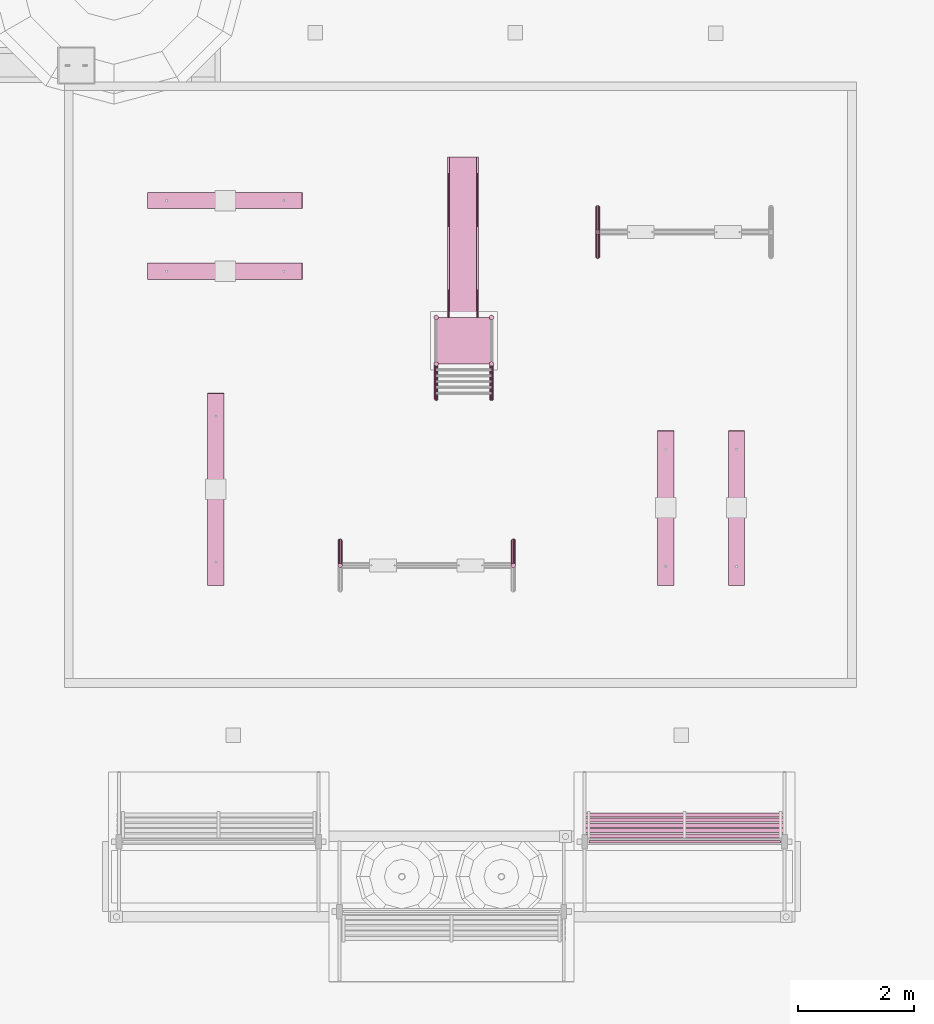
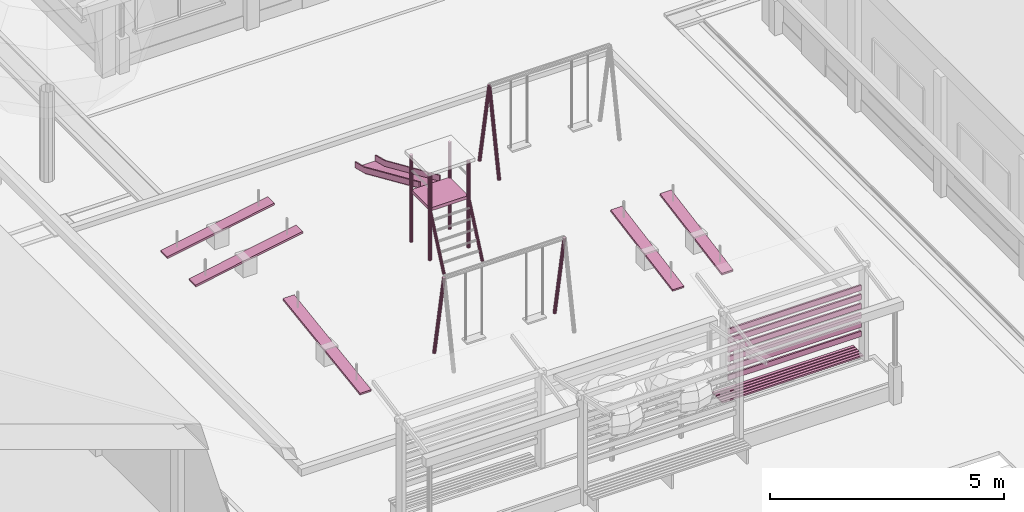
# One storey, part 146 of 177: 30 furnishings.
"""IFC4 building model written with IfcOpenShell, lengths in metres."""

from ifc_helpers import new_model, si_unit, origin, origin_with_axes, place, context, subcontext, project, spatial, triangles, element, save


model = new_model("IFC4")

# Units and contexts
model_context = context("Model", 3, precision=1e-05, world=origin_with_axes())
body_context = subcontext(model_context, "Body", "Model", "MODEL_VIEW")
ifc_project = project(units=[si_unit("LENGTHUNIT", "METRE"), si_unit("AREAUNIT", "SQUARE_METRE"), si_unit("VOLUMEUNIT", "CUBIC_METRE"), si_unit("PLANEANGLEUNIT", "RADIAN")], contexts=[model_context])

# Site, building, storey
site_placement = place(None, origin_with_axes())
site = spatial("IfcSite", under=ifc_project, at=site_placement, Name="Predio Los Mangos - Morales, San Martín", CompositionType="ELEMENT")
building_placement = place(site_placement, origin())
building = spatial("IfcBuilding", under=site, at=building_placement, Name="Hogar de Refugio Temporal", CompositionType="ELEMENT")
storey_placement = place(building_placement, origin())
storey = spatial("IfcBuildingStorey", under=building, at=storey_placement, Name="NIVEL 1 (NPT +0.00)", CompositionType="ELEMENT", Elevation=0.0)

# Furnishings
furnishing_1_placement = place(storey_placement, origin())
element("IfcFurnishingElement", 1, at=furnishing_1_placement, inside=storey, Name="balancin_tabla", ObjectType="Mobiliario exterior / juegos", context=body_context, shape_type="Tessellation", body=[
    triangles([(38.6172, 79.4125, 0.2754), (38.6172, 82.0625, 0.7554), (38.3372, 82.0625, 0.7554), (38.3372, 79.4125, 0.2754), (38.6172, 79.4035, 0.3246), (38.6172, 82.0535, 0.8046), (38.3372, 82.0535, 0.8046), (38.3372, 79.4035, 0.3246)], [[1, 4, 3], [1, 3, 2], [5, 6, 7], [5, 7, 8], [1, 2, 6], [1, 6, 5], [2, 3, 7], [2, 7, 6], [3, 4, 8], [3, 8, 7], [4, 1, 5], [4, 5, 8]]),
])
furnishing_2_placement = place(storey_placement, origin())
element("IfcFurnishingElement", 2, at=furnishing_2_placement, inside=storey, Name="balancin_tabla", ObjectType="Mobiliario exterior / juegos", context=body_context, shape_type="Tessellation", body=[
    triangles([(39.8317, 79.4125, 0.2754), (39.8317, 82.0625, 0.7554), (39.5518, 82.0625, 0.7554), (39.5518, 79.4125, 0.2754), (39.8317, 79.4035, 0.3246), (39.8317, 82.0535, 0.8046), (39.5518, 82.0535, 0.8046), (39.5518, 79.4035, 0.3246)], [[1, 4, 3], [1, 3, 2], [5, 6, 7], [5, 7, 8], [1, 2, 6], [1, 6, 5], [2, 3, 7], [2, 7, 6], [3, 4, 8], [3, 8, 7], [4, 1, 5], [4, 5, 8]]),
])
furnishing_3_placement = place(storey_placement, origin())
element("IfcFurnishingElement", 3, at=furnishing_3_placement, inside=storey, Name="tobogan_escalera", ObjectType="Mobiliario exterior / juegos", context=body_context, shape_type="Tessellation", body=[
    triangles([(34.535, 82.5721, 0.1445), (34.535, 83.1721, 1.4645), (34.5175, 82.5764, 0.1425), (34.5175, 83.1764, 1.4625), (34.5047, 82.5881, 0.1372), (34.5047, 83.1881, 1.4572), (34.5, 82.604, 0.13), (34.5, 83.204, 1.45), (34.5047, 82.6199, 0.1228), (34.5047, 83.2199, 1.4428), (34.5175, 82.6316, 0.1175), (34.5175, 83.2316, 1.4375), (34.535, 82.6359, 0.1155), (34.535, 83.2359, 1.4355), (34.5525, 82.6316, 0.1175), (34.5525, 83.2316, 1.4375), (34.5653, 82.6199, 0.1228), (34.5653, 83.2199, 1.4428), (34.57, 82.604, 0.13), (34.57, 83.204, 1.45), (34.5653, 82.5881, 0.1372), (34.5653, 83.1881, 1.4572), (34.5525, 82.5764, 0.1425), (34.5525, 83.1764, 1.4625)], [[1, 2, 4], [1, 4, 3], [3, 4, 6], [3, 6, 5], [5, 6, 8], [5, 8, 7], [7, 8, 10], [7, 10, 9], [9, 10, 12], [9, 12, 11], [11, 12, 14], [11, 14, 13], [13, 14, 16], [13, 16, 15], [15, 16, 18], [15, 18, 17], [17, 18, 20], [17, 20, 19], [19, 20, 22], [19, 22, 21], [6, 4, 2], [2, 24, 22], [22, 20, 18], [18, 16, 14], [14, 12, 10], [10, 8, 6], [6, 2, 22], [22, 18, 14], [14, 10, 6], [22, 14, 6], [21, 22, 24], [21, 24, 23], [23, 24, 2], [23, 2, 1], [23, 1, 3], [3, 5, 7], [7, 9, 11], [11, 13, 15], [15, 17, 19], [19, 21, 23], [23, 3, 7], [7, 11, 15], [15, 19, 23], [7, 15, 23]]),
])
furnishing_4_placement = place(storey_placement, origin())
element("IfcFurnishingElement", 4, at=furnishing_4_placement, inside=storey, Name="tobogan_poste", ObjectType="Mobiliario exterior / juegos", context=body_context, shape_type="Tessellation", body=[
    triangles([(34.535, 83.164, 0.13), (34.535, 83.164, 2.4), (34.515, 83.1694, 0.13), (34.515, 83.1694, 2.4), (34.5004, 83.184, 0.13), (34.5004, 83.184, 2.4), (34.495, 83.204, 0.13), (34.495, 83.204, 2.4), (34.5004, 83.224, 0.13), (34.5004, 83.224, 2.4), (34.515, 83.2386, 0.13), (34.515, 83.2386, 2.4), (34.535, 83.244, 0.13), (34.535, 83.244, 2.4), (34.555, 83.2386, 0.13), (34.555, 83.2386, 2.4), (34.5696, 83.224, 0.13), (34.5696, 83.224, 2.4), (34.575, 83.204, 0.13), (34.575, 83.204, 2.4), (34.5696, 83.184, 0.13), (34.5696, 83.184, 2.4), (34.555, 83.1694, 0.13), (34.555, 83.1694, 2.4)], [[1, 2, 4], [1, 4, 3], [3, 4, 6], [3, 6, 5], [5, 6, 8], [5, 8, 7], [7, 8, 10], [7, 10, 9], [9, 10, 12], [9, 12, 11], [11, 12, 14], [11, 14, 13], [13, 14, 16], [13, 16, 15], [15, 16, 18], [15, 18, 17], [17, 18, 20], [17, 20, 19], [19, 20, 22], [19, 22, 21], [6, 4, 2], [2, 24, 22], [22, 20, 18], [18, 16, 14], [14, 12, 10], [10, 8, 6], [6, 2, 22], [22, 18, 14], [14, 10, 6], [22, 14, 6], [21, 22, 24], [21, 24, 23], [23, 24, 2], [23, 2, 1], [23, 1, 3], [3, 5, 7], [7, 9, 11], [11, 13, 15], [15, 17, 19], [19, 21, 23], [23, 3, 7], [7, 11, 15], [15, 19, 23], [7, 15, 23]]),
])
furnishing_5_placement = place(storey_placement, origin())
element("IfcFurnishingElement", 5, at=furnishing_5_placement, inside=storey, Name="tobogan_poste", ObjectType="Mobiliario exterior / juegos", context=body_context, shape_type="Tessellation", body=[
    triangles([(34.535, 83.964, 0.13), (34.535, 83.964, 2.4), (34.515, 83.9694, 0.13), (34.515, 83.9694, 2.4), (34.5004, 83.984, 0.13), (34.5004, 83.984, 2.4), (34.495, 84.004, 0.13), (34.495, 84.004, 2.4), (34.5004, 84.024, 0.13), (34.5004, 84.024, 2.4), (34.515, 84.0386, 0.13), (34.515, 84.0386, 2.4), (34.535, 84.044, 0.13), (34.535, 84.044, 2.4), (34.555, 84.0386, 0.13), (34.555, 84.0386, 2.4), (34.5696, 84.024, 0.13), (34.5696, 84.024, 2.4), (34.575, 84.004, 0.13), (34.575, 84.004, 2.4), (34.5696, 83.984, 0.13), (34.5696, 83.984, 2.4), (34.555, 83.9694, 0.13), (34.555, 83.9694, 2.4)], [[1, 2, 4], [1, 4, 3], [3, 4, 6], [3, 6, 5], [5, 6, 8], [5, 8, 7], [7, 8, 10], [7, 10, 9], [9, 10, 12], [9, 12, 11], [11, 12, 14], [11, 14, 13], [13, 14, 16], [13, 16, 15], [15, 16, 18], [15, 18, 17], [17, 18, 20], [17, 20, 19], [19, 20, 22], [19, 22, 21], [6, 4, 2], [2, 24, 22], [22, 20, 18], [18, 16, 14], [14, 12, 10], [10, 8, 6], [6, 2, 22], [22, 18, 14], [14, 10, 6], [22, 14, 6], [21, 22, 24], [21, 24, 23], [23, 24, 2], [23, 2, 1], [23, 1, 3], [3, 5, 7], [7, 9, 11], [11, 13, 15], [15, 17, 19], [19, 21, 23], [23, 3, 7], [7, 11, 15], [15, 19, 23], [7, 15, 23]]),
])
furnishing_6_placement = place(storey_placement, origin())
element("IfcFurnishingElement", 6, at=furnishing_6_placement, inside=storey, Name="tobogan_escalera", ObjectType="Mobiliario exterior / juegos", context=body_context, shape_type="Tessellation", body=[
    triangles([(35.485, 82.5721, 0.1445), (35.485, 83.1721, 1.4645), (35.4675, 82.5764, 0.1425), (35.4675, 83.1764, 1.4625), (35.4547, 82.5881, 0.1372), (35.4547, 83.1881, 1.4572), (35.45, 82.604, 0.13), (35.45, 83.204, 1.45), (35.4547, 82.6199, 0.1228), (35.4547, 83.2199, 1.4428), (35.4675, 82.6316, 0.1175), (35.4675, 83.2316, 1.4375), (35.485, 82.6359, 0.1155), (35.485, 83.2359, 1.4355), (35.5025, 82.6316, 0.1175), (35.5025, 83.2316, 1.4375), (35.5153, 82.6199, 0.1228), (35.5153, 83.2199, 1.4428), (35.52, 82.604, 0.13), (35.52, 83.204, 1.45), (35.5153, 82.5881, 0.1372), (35.5153, 83.1881, 1.4572), (35.5025, 82.5764, 0.1425), (35.5025, 83.1764, 1.4625)], [[1, 2, 4], [1, 4, 3], [3, 4, 6], [3, 6, 5], [5, 6, 8], [5, 8, 7], [7, 8, 10], [7, 10, 9], [9, 10, 12], [9, 12, 11], [11, 12, 14], [11, 14, 13], [13, 14, 16], [13, 16, 15], [15, 16, 18], [15, 18, 17], [17, 18, 20], [17, 20, 19], [19, 20, 22], [19, 22, 21], [6, 4, 2], [2, 24, 22], [22, 20, 18], [18, 16, 14], [14, 12, 10], [10, 8, 6], [6, 2, 22], [22, 18, 14], [14, 10, 6], [22, 14, 6], [21, 22, 24], [21, 24, 23], [23, 24, 2], [23, 2, 1], [23, 1, 3], [3, 5, 7], [7, 9, 11], [11, 13, 15], [15, 17, 19], [19, 21, 23], [23, 3, 7], [7, 11, 15], [15, 19, 23], [7, 15, 23]]),
])
furnishing_7_placement = place(storey_placement, origin())
element("IfcFurnishingElement", 7, at=furnishing_7_placement, inside=storey, Name="tobogan_poste", ObjectType="Mobiliario exterior / juegos", context=body_context, shape_type="Tessellation", body=[
    triangles([(35.485, 83.164, 0.13), (35.485, 83.164, 2.4), (35.465, 83.1694, 0.13), (35.465, 83.1694, 2.4), (35.4504, 83.184, 0.13), (35.4504, 83.184, 2.4), (35.445, 83.204, 0.13), (35.445, 83.204, 2.4), (35.4504, 83.224, 0.13), (35.4504, 83.224, 2.4), (35.465, 83.2386, 0.13), (35.465, 83.2386, 2.4), (35.485, 83.244, 0.13), (35.485, 83.244, 2.4), (35.505, 83.2386, 0.13), (35.505, 83.2386, 2.4), (35.5196, 83.224, 0.13), (35.5196, 83.224, 2.4), (35.525, 83.204, 0.13), (35.525, 83.204, 2.4), (35.5196, 83.184, 0.13), (35.5196, 83.184, 2.4), (35.505, 83.1694, 0.13), (35.505, 83.1694, 2.4)], [[1, 2, 4], [1, 4, 3], [3, 4, 6], [3, 6, 5], [5, 6, 8], [5, 8, 7], [7, 8, 10], [7, 10, 9], [9, 10, 12], [9, 12, 11], [11, 12, 14], [11, 14, 13], [13, 14, 16], [13, 16, 15], [15, 16, 18], [15, 18, 17], [17, 18, 20], [17, 20, 19], [19, 20, 22], [19, 22, 21], [6, 4, 2], [2, 24, 22], [22, 20, 18], [18, 16, 14], [14, 12, 10], [10, 8, 6], [6, 2, 22], [22, 18, 14], [14, 10, 6], [22, 14, 6], [21, 22, 24], [21, 24, 23], [23, 24, 2], [23, 2, 1], [23, 1, 3], [3, 5, 7], [7, 9, 11], [11, 13, 15], [15, 17, 19], [19, 21, 23], [23, 3, 7], [7, 11, 15], [15, 19, 23], [7, 15, 23]]),
])
furnishing_8_placement = place(storey_placement, origin())
element("IfcFurnishingElement", 8, at=furnishing_8_placement, inside=storey, Name="tobogan_poste", ObjectType="Mobiliario exterior / juegos", context=body_context, shape_type="Tessellation", body=[
    triangles([(35.485, 83.964, 0.13), (35.485, 83.964, 2.4), (35.465, 83.9694, 0.13), (35.465, 83.9694, 2.4), (35.4504, 83.984, 0.13), (35.4504, 83.984, 2.4), (35.445, 84.004, 0.13), (35.445, 84.004, 2.4), (35.4504, 84.024, 0.13), (35.4504, 84.024, 2.4), (35.465, 84.0386, 0.13), (35.465, 84.0386, 2.4), (35.485, 84.044, 0.13), (35.485, 84.044, 2.4), (35.505, 84.0386, 0.13), (35.505, 84.0386, 2.4), (35.5196, 84.024, 0.13), (35.5196, 84.024, 2.4), (35.525, 84.004, 0.13), (35.525, 84.004, 2.4), (35.5196, 83.984, 0.13), (35.5196, 83.984, 2.4), (35.505, 83.9694, 0.13), (35.505, 83.9694, 2.4)], [[1, 2, 4], [1, 4, 3], [3, 4, 6], [3, 6, 5], [5, 6, 8], [5, 8, 7], [7, 8, 10], [7, 10, 9], [9, 10, 12], [9, 12, 11], [11, 12, 14], [11, 14, 13], [13, 14, 16], [13, 16, 15], [15, 16, 18], [15, 18, 17], [17, 18, 20], [17, 20, 19], [19, 20, 22], [19, 22, 21], [6, 4, 2], [2, 24, 22], [22, 20, 18], [18, 16, 14], [14, 12, 10], [10, 8, 6], [6, 2, 22], [22, 18, 14], [14, 10, 6], [22, 14, 6], [21, 22, 24], [21, 24, 23], [23, 24, 2], [23, 2, 1], [23, 1, 3], [3, 5, 7], [7, 9, 11], [11, 13, 15], [15, 17, 19], [19, 21, 23], [23, 3, 7], [7, 11, 15], [15, 19, 23], [7, 15, 23]]),
])
furnishing_9_placement = place(storey_placement, origin())
element("IfcFurnishingElement", 9, at=furnishing_9_placement, inside=storey, Name="tobogan_plataforma", ObjectType="Mobiliario exterior / juegos", context=body_context, shape_type="Tessellation", body=[
    triangles([(34.535, 83.204, 1.4), (35.485, 83.204, 1.4), (35.485, 84.004, 1.4), (34.535, 84.004, 1.4), (34.535, 83.204, 1.48), (35.485, 83.204, 1.48), (35.485, 84.004, 1.48), (34.535, 84.004, 1.48)], [[1, 4, 3], [1, 3, 2], [5, 6, 7], [5, 7, 8], [1, 2, 6], [1, 6, 5], [2, 3, 7], [2, 7, 6], [3, 4, 8], [3, 8, 7], [4, 1, 5], [4, 5, 8]]),
])
furnishing_10_placement = place(storey_placement, origin())
element("IfcFurnishingElement", 10, at=furnishing_10_placement, inside=storey, Name="resbaladera", ObjectType="Mobiliario exterior / juegos", context=body_context, shape_type="Tessellation", body=[
    triangles([(34.76, 84.004, 1.46), (35.26, 84.004, 1.46), (35.26, 86.356, 0.42), (34.76, 86.356, 0.42), (34.76, 86.756, 0.32), (35.26, 86.756, 0.32), (34.76, 83.9919, 1.4326), (35.26, 83.9919, 1.4326), (35.26, 86.3463, 0.3916), (34.76, 86.3463, 0.3916), (34.76, 86.7487, 0.2909), (35.26, 86.7487, 0.2909)], [[1, 2, 3], [1, 3, 4], [4, 3, 6], [4, 6, 5], [7, 10, 9], [7, 9, 8], [10, 11, 12], [10, 12, 9], [1, 4, 10], [1, 10, 7], [2, 1, 7], [2, 7, 8], [3, 2, 8], [3, 8, 9], [4, 5, 11], [4, 11, 10], [6, 3, 9], [6, 9, 12], [5, 6, 12], [5, 12, 11]]),
])
furnishing_11_placement = place(storey_placement, origin())
element("IfcFurnishingElement", 11, at=furnishing_11_placement, inside=storey, Name="resbaladera_borde", ObjectType="Mobiliario exterior / juegos", context=body_context, shape_type="Tessellation", body=[
    triangles([(34.76, 84.004, 1.46), (34.76, 86.356, 0.42), (34.76, 86.756, 0.32), (34.76, 86.756, 0.47), (34.76, 86.356, 0.57), (34.76, 84.004, 1.61), (34.73, 84.004, 1.46), (34.73, 86.356, 0.42), (34.73, 86.756, 0.32), (34.73, 86.756, 0.47), (34.73, 86.356, 0.57), (34.73, 84.004, 1.61)], [[1, 2, 5], [1, 5, 6], [2, 3, 4], [2, 4, 5], [7, 12, 11], [7, 11, 8], [8, 11, 10], [8, 10, 9], [1, 6, 12], [1, 12, 7], [2, 1, 7], [2, 7, 8], [6, 5, 11], [6, 11, 12], [3, 2, 8], [3, 8, 9], [4, 3, 9], [4, 9, 10], [5, 4, 10], [5, 10, 11]]),
])
furnishing_12_placement = place(storey_placement, origin())
element("IfcFurnishingElement", 12, at=furnishing_12_placement, inside=storey, Name="resbaladera_borde", ObjectType="Mobiliario exterior / juegos", context=body_context, shape_type="Tessellation", body=[
    triangles([(35.26, 84.004, 1.46), (35.26, 86.356, 0.42), (35.26, 86.756, 0.32), (35.26, 86.756, 0.47), (35.26, 86.356, 0.57), (35.26, 84.004, 1.61), (35.23, 84.004, 1.46), (35.23, 86.356, 0.42), (35.23, 86.756, 0.32), (35.23, 86.756, 0.47), (35.23, 86.356, 0.57), (35.23, 84.004, 1.61)], [[1, 2, 5], [1, 5, 6], [2, 3, 4], [2, 4, 5], [7, 12, 11], [7, 11, 8], [8, 11, 10], [8, 10, 9], [1, 6, 12], [1, 12, 7], [2, 1, 7], [2, 7, 8], [6, 5, 11], [6, 11, 12], [3, 2, 8], [3, 8, 9], [4, 3, 9], [4, 9, 10], [5, 4, 10], [5, 10, 11]]),
])
furnishing_13_placement = place(storey_placement, origin())
element("IfcFurnishingElement", 13, at=furnishing_13_placement, inside=storey, Name="balancin_tabla", ObjectType="Mobiliario exterior / juegos", context=body_context, shape_type="Tessellation", body=[
    triangles([(30.891, 79.4076, 0.2753), (30.891, 82.7066, 0.7553), (30.611, 82.7066, 0.7553), (30.611, 79.4076, 0.2753), (30.891, 79.4004, 0.3247), (30.891, 82.6994, 0.8047), (30.611, 82.6994, 0.8047), (30.611, 79.4004, 0.3247)], [[1, 4, 3], [1, 3, 2], [5, 6, 7], [5, 7, 8], [1, 2, 6], [1, 6, 5], [2, 3, 7], [2, 7, 6], [3, 4, 8], [3, 8, 7], [4, 1, 5], [4, 5, 8]]),
])
furnishing_14_placement = place(storey_placement, origin())
element("IfcFurnishingElement", 14, at=furnishing_14_placement, inside=storey, Name="columpio_pata", ObjectType="Mobiliario exterior / juegos", context=body_context, shape_type="Tessellation", body=[
    triangles([(32.885, 80.2033, 0.1374), (32.885, 79.7833, 2.3574), (32.905, 80.198, 0.1364), (32.905, 79.778, 2.3564), (32.9196, 80.1837, 0.1337), (32.9196, 79.7637, 2.3537), (32.925, 80.164, 0.13), (32.925, 79.744, 2.35), (32.9196, 80.1443, 0.1263), (32.9196, 79.7243, 2.3463), (32.905, 80.13, 0.1236), (32.905, 79.71, 2.3436), (32.885, 80.1247, 0.1226), (32.885, 79.7047, 2.3426), (32.865, 80.13, 0.1236), (32.865, 79.71, 2.3436), (32.8504, 80.1443, 0.1263), (32.8504, 79.7243, 2.3463), (32.845, 80.164, 0.13), (32.845, 79.744, 2.35), (32.8504, 80.1837, 0.1337), (32.8504, 79.7637, 2.3537), (32.865, 80.198, 0.1364), (32.865, 79.778, 2.3564)], [[1, 2, 4], [1, 4, 3], [3, 4, 6], [3, 6, 5], [5, 6, 8], [5, 8, 7], [7, 8, 10], [7, 10, 9], [9, 10, 12], [9, 12, 11], [11, 12, 14], [11, 14, 13], [13, 14, 16], [13, 16, 15], [15, 16, 18], [15, 18, 17], [17, 18, 20], [17, 20, 19], [19, 20, 22], [19, 22, 21], [6, 4, 2], [2, 24, 22], [22, 20, 18], [18, 16, 14], [14, 12, 10], [10, 8, 6], [6, 2, 22], [22, 18, 14], [14, 10, 6], [22, 14, 6], [21, 22, 24], [21, 24, 23], [23, 24, 2], [23, 2, 1], [23, 1, 3], [3, 5, 7], [7, 9, 11], [11, 13, 15], [15, 17, 19], [19, 21, 23], [23, 3, 7], [7, 11, 15], [15, 19, 23], [7, 15, 23]]),
])
furnishing_15_placement = place(storey_placement, origin())
element("IfcFurnishingElement", 15, at=furnishing_15_placement, inside=storey, Name="columpio_pata", ObjectType="Mobiliario exterior / juegos", context=body_context, shape_type="Tessellation", body=[
    triangles([(35.86, 80.2033, 0.1374), (35.86, 79.7833, 2.3574), (35.88, 80.198, 0.1364), (35.88, 79.778, 2.3564), (35.8946, 80.1837, 0.1337), (35.8946, 79.7637, 2.3537), (35.9, 80.164, 0.13), (35.9, 79.744, 2.35), (35.8946, 80.1443, 0.1263), (35.8946, 79.7243, 2.3463), (35.88, 80.13, 0.1236), (35.88, 79.71, 2.3436), (35.86, 80.1247, 0.1226), (35.86, 79.7047, 2.3426), (35.84, 80.13, 0.1236), (35.84, 79.71, 2.3436), (35.8254, 80.1443, 0.1263), (35.8254, 79.7243, 2.3463), (35.82, 80.164, 0.13), (35.82, 79.744, 2.35), (35.8254, 80.1837, 0.1337), (35.8254, 79.7637, 2.3537), (35.84, 80.198, 0.1364), (35.84, 79.778, 2.3564)], [[1, 2, 4], [1, 4, 3], [3, 4, 6], [3, 6, 5], [5, 6, 8], [5, 8, 7], [7, 8, 10], [7, 10, 9], [9, 10, 12], [9, 12, 11], [11, 12, 14], [11, 14, 13], [13, 14, 16], [13, 16, 15], [15, 16, 18], [15, 18, 17], [17, 18, 20], [17, 20, 19], [19, 20, 22], [19, 22, 21], [6, 4, 2], [2, 24, 22], [22, 20, 18], [18, 16, 14], [14, 12, 10], [10, 8, 6], [6, 2, 22], [22, 18, 14], [14, 10, 6], [22, 14, 6], [21, 22, 24], [21, 24, 23], [23, 24, 2], [23, 2, 1], [23, 1, 3], [3, 5, 7], [7, 9, 11], [11, 13, 15], [15, 17, 19], [19, 21, 23], [23, 3, 7], [7, 11, 15], [15, 19, 23], [7, 15, 23]]),
])
furnishing_16_placement = place(storey_placement, origin())
element("IfcFurnishingElement", 16, at=furnishing_16_placement, inside=storey, Name="columpio_pata", ObjectType="Mobiliario exterior / juegos", context=body_context, shape_type="Tessellation", body=[
    triangles([(37.31, 85.0097, 0.1374), (37.31, 85.4297, 2.3574), (37.29, 85.015, 0.1364), (37.29, 85.435, 2.3564), (37.2754, 85.0294, 0.1337), (37.2754, 85.4493, 2.3537), (37.27, 85.049, 0.13), (37.27, 85.469, 2.35), (37.2754, 85.0687, 0.1263), (37.2754, 85.4887, 2.3463), (37.29, 85.083, 0.1236), (37.29, 85.503, 2.3436), (37.31, 85.0883, 0.1226), (37.31, 85.5083, 2.3426), (37.33, 85.083, 0.1236), (37.33, 85.503, 2.3436), (37.3446, 85.0687, 0.1263), (37.3446, 85.4887, 2.3463), (37.35, 85.049, 0.13), (37.35, 85.469, 2.35), (37.3446, 85.0294, 0.1337), (37.3446, 85.4493, 2.3537), (37.33, 85.015, 0.1364), (37.33, 85.435, 2.3564)], [[1, 2, 4], [1, 4, 3], [3, 4, 6], [3, 6, 5], [5, 6, 8], [5, 8, 7], [7, 8, 10], [7, 10, 9], [9, 10, 12], [9, 12, 11], [11, 12, 14], [11, 14, 13], [13, 14, 16], [13, 16, 15], [15, 16, 18], [15, 18, 17], [17, 18, 20], [17, 20, 19], [19, 20, 22], [19, 22, 21], [6, 4, 2], [2, 24, 22], [22, 20, 18], [18, 16, 14], [14, 12, 10], [10, 8, 6], [6, 2, 22], [22, 18, 14], [14, 10, 6], [22, 14, 6], [21, 22, 24], [21, 24, 23], [23, 24, 2], [23, 2, 1], [23, 1, 3], [3, 5, 7], [7, 9, 11], [11, 13, 15], [15, 17, 19], [19, 21, 23], [23, 3, 7], [7, 11, 15], [15, 19, 23], [7, 15, 23]]),
])
furnishing_17_placement = place(storey_placement, origin())
element("IfcFurnishingElement", 17, at=furnishing_17_placement, inside=storey, Name="columpio_pata", ObjectType="Mobiliario exterior / juegos", context=body_context, shape_type="Tessellation", body=[
    triangles([(37.31, 85.9283, 0.1374), (37.31, 85.5083, 2.3574), (37.33, 85.923, 0.1364), (37.33, 85.503, 2.3564), (37.3446, 85.9087, 0.1337), (37.3446, 85.4887, 2.3537), (37.35, 85.889, 0.13), (37.35, 85.469, 2.35), (37.3446, 85.8693, 0.1263), (37.3446, 85.4493, 2.3463), (37.33, 85.855, 0.1236), (37.33, 85.435, 2.3436), (37.31, 85.8497, 0.1226), (37.31, 85.4297, 2.3426), (37.29, 85.855, 0.1236), (37.29, 85.435, 2.3436), (37.2754, 85.8693, 0.1263), (37.2754, 85.4493, 2.3463), (37.27, 85.889, 0.13), (37.27, 85.469, 2.35), (37.2754, 85.9087, 0.1337), (37.2754, 85.4887, 2.3537), (37.29, 85.923, 0.1364), (37.29, 85.503, 2.3564)], [[1, 2, 4], [1, 4, 3], [3, 4, 6], [3, 6, 5], [5, 6, 8], [5, 8, 7], [7, 8, 10], [7, 10, 9], [9, 10, 12], [9, 12, 11], [11, 12, 14], [11, 14, 13], [13, 14, 16], [13, 16, 15], [15, 16, 18], [15, 18, 17], [17, 18, 20], [17, 20, 19], [19, 20, 22], [19, 22, 21], [6, 4, 2], [2, 24, 22], [22, 20, 18], [18, 16, 14], [14, 12, 10], [10, 8, 6], [6, 2, 22], [22, 18, 14], [14, 10, 6], [22, 14, 6], [21, 22, 24], [21, 24, 23], [23, 24, 2], [23, 2, 1], [23, 1, 3], [3, 5, 7], [7, 9, 11], [11, 13, 15], [15, 17, 19], [19, 21, 23], [23, 3, 7], [7, 11, 15], [15, 19, 23], [7, 15, 23]]),
])
furnishing_18_placement = place(storey_placement, origin())
element("IfcFurnishingElement", 18, at=furnishing_18_placement, inside=storey, Name="balancin_tabla", ObjectType="Mobiliario exterior / juegos", context=body_context, shape_type="Tessellation", body=[
    triangles([(29.5895, 84.6553, 0.2754), (32.2395, 84.6553, 0.7554), (32.2395, 84.9352, 0.7554), (29.5895, 84.9352, 0.2754), (29.5805, 84.6553, 0.3246), (32.2305, 84.6553, 0.8046), (32.2305, 84.9352, 0.8046), (29.5805, 84.9352, 0.3246)], [[1, 4, 3], [1, 3, 2], [5, 6, 7], [5, 7, 8], [1, 2, 6], [1, 6, 5], [2, 3, 7], [2, 7, 6], [3, 4, 8], [3, 8, 7], [4, 1, 5], [4, 5, 8]]),
])
furnishing_19_placement = place(storey_placement, origin())
element("IfcFurnishingElement", 19, at=furnishing_19_placement, inside=storey, Name="balancin_tabla", ObjectType="Mobiliario exterior / juegos", context=body_context, shape_type="Tessellation", body=[
    triangles([(29.5895, 85.8698, 0.2754), (32.2395, 85.8698, 0.7554), (32.2395, 86.1497, 0.7554), (29.5895, 86.1497, 0.2754), (29.5805, 85.8698, 0.3246), (32.2305, 85.8698, 0.8046), (32.2305, 86.1497, 0.8046), (29.5805, 86.1497, 0.3246)], [[1, 4, 3], [1, 3, 2], [5, 6, 7], [5, 7, 8], [1, 2, 6], [1, 6, 5], [2, 3, 7], [2, 7, 6], [3, 4, 8], [3, 8, 7], [4, 1, 5], [4, 5, 8]]),
])
furnishing_20_placement = place(storey_placement, origin())
element("IfcFurnishingElement", 20, at=furnishing_20_placement, inside=storey, Name="oc01_celosia", ObjectType="Mobiliario exterior / juegos", context=body_context, shape_type="Tessellation", body=[
    triangles([(40.445, 75.02, 1.05), (37.155, 75.02, 1.05), (37.155, 74.98, 1.05), (40.445, 74.98, 1.05), (40.445, 75.02, 1.19), (37.155, 75.02, 1.19), (37.155, 74.98, 1.19), (40.445, 74.98, 1.19)], [[1, 4, 3], [1, 3, 2], [5, 6, 7], [5, 7, 8], [1, 2, 6], [1, 6, 5], [2, 3, 7], [2, 7, 6], [3, 4, 8], [3, 8, 7], [4, 1, 5], [4, 5, 8]]),
])
furnishing_21_placement = place(storey_placement, origin())
element("IfcFurnishingElement", 21, at=furnishing_21_placement, inside=storey, Name="oc01_celosia", ObjectType="Mobiliario exterior / juegos", context=body_context, shape_type="Tessellation", body=[
    triangles([(40.445, 75.02, 1.29), (37.155, 75.02, 1.29), (37.155, 74.98, 1.29), (40.445, 74.98, 1.29), (40.445, 75.02, 1.43), (37.155, 75.02, 1.43), (37.155, 74.98, 1.43), (40.445, 74.98, 1.43)], [[1, 4, 3], [1, 3, 2], [5, 6, 7], [5, 7, 8], [1, 2, 6], [1, 6, 5], [2, 3, 7], [2, 7, 6], [3, 4, 8], [3, 8, 7], [4, 1, 5], [4, 5, 8]]),
])
furnishing_22_placement = place(storey_placement, origin())
element("IfcFurnishingElement", 22, at=furnishing_22_placement, inside=storey, Name="oc01_celosia", ObjectType="Mobiliario exterior / juegos", context=body_context, shape_type="Tessellation", body=[
    triangles([(40.445, 75.02, 1.53), (37.155, 75.02, 1.53), (37.155, 74.98, 1.53), (40.445, 74.98, 1.53), (40.445, 75.02, 1.67), (37.155, 75.02, 1.67), (37.155, 74.98, 1.67), (40.445, 74.98, 1.67)], [[1, 4, 3], [1, 3, 2], [5, 6, 7], [5, 7, 8], [1, 2, 6], [1, 6, 5], [2, 3, 7], [2, 7, 6], [3, 4, 8], [3, 8, 7], [4, 1, 5], [4, 5, 8]]),
])
furnishing_23_placement = place(storey_placement, origin())
element("IfcFurnishingElement", 23, at=furnishing_23_placement, inside=storey, Name="oc01_celosia", ObjectType="Mobiliario exterior / juegos", context=body_context, shape_type="Tessellation", body=[
    triangles([(40.445, 75.02, 1.77), (37.155, 75.02, 1.77), (37.155, 74.98, 1.77), (40.445, 74.98, 1.77), (40.445, 75.02, 1.91), (37.155, 75.02, 1.91), (37.155, 74.98, 1.91), (40.445, 74.98, 1.91)], [[1, 4, 3], [1, 3, 2], [5, 6, 7], [5, 7, 8], [1, 2, 6], [1, 6, 5], [2, 3, 7], [2, 7, 6], [3, 4, 8], [3, 8, 7], [4, 1, 5], [4, 5, 8]]),
])
furnishing_24_placement = place(storey_placement, origin())
element("IfcFurnishingElement", 24, at=furnishing_24_placement, inside=storey, Name="oc01_celosia", ObjectType="Mobiliario exterior / juegos", context=body_context, shape_type="Tessellation", body=[
    triangles([(40.445, 75.02, 2.01), (37.155, 75.02, 2.01), (37.155, 74.98, 2.01), (40.445, 74.98, 2.01), (40.445, 75.02, 2.15), (37.155, 75.02, 2.15), (37.155, 74.98, 2.15), (40.445, 74.98, 2.15)], [[1, 4, 3], [1, 3, 2], [5, 6, 7], [5, 7, 8], [1, 2, 6], [1, 6, 5], [2, 3, 7], [2, 7, 6], [3, 4, 8], [3, 8, 7], [4, 1, 5], [4, 5, 8]]),
])
furnishing_25_placement = place(storey_placement, origin())
element("IfcFurnishingElement", 25, at=furnishing_25_placement, inside=storey, Name="oc01_celosia", ObjectType="Mobiliario exterior / juegos", context=body_context, shape_type="Tessellation", body=[
    triangles([(40.445, 75.02, 2.25), (37.155, 75.02, 2.25), (37.155, 74.98, 2.25), (40.445, 74.98, 2.25), (40.445, 75.02, 2.39), (37.155, 75.02, 2.39), (37.155, 74.98, 2.39), (40.445, 74.98, 2.39)], [[1, 4, 3], [1, 3, 2], [5, 6, 7], [5, 7, 8], [1, 2, 6], [1, 6, 5], [2, 3, 7], [2, 7, 6], [3, 4, 8], [3, 8, 7], [4, 1, 5], [4, 5, 8]]),
])
furnishing_26_placement = place(storey_placement, origin())
element("IfcFurnishingElement", 26, at=furnishing_26_placement, inside=storey, Name="oc01_asiento", ObjectType="Mobiliario exterior / juegos", context=body_context, shape_type="Tessellation", body=[
    triangles([(40.545, 75.135, 0.44), (37.055, 75.135, 0.44), (37.055, 75.065, 0.44), (40.545, 75.065, 0.44), (40.545, 75.135, 0.48), (37.055, 75.135, 0.48), (37.055, 75.065, 0.48), (40.545, 75.065, 0.48)], [[1, 4, 3], [1, 3, 2], [5, 6, 7], [5, 7, 8], [1, 2, 6], [1, 6, 5], [2, 3, 7], [2, 7, 6], [3, 4, 8], [3, 8, 7], [4, 1, 5], [4, 5, 8]]),
])
furnishing_27_placement = place(storey_placement, origin())
element("IfcFurnishingElement", 27, at=furnishing_27_placement, inside=storey, Name="oc01_asiento", ObjectType="Mobiliario exterior / juegos", context=body_context, shape_type="Tessellation", body=[
    triangles([(40.545, 75.225, 0.44), (37.055, 75.225, 0.44), (37.055, 75.155, 0.44), (40.545, 75.155, 0.44), (40.545, 75.225, 0.48), (37.055, 75.225, 0.48), (37.055, 75.155, 0.48), (40.545, 75.155, 0.48)], [[1, 4, 3], [1, 3, 2], [5, 6, 7], [5, 7, 8], [1, 2, 6], [1, 6, 5], [2, 3, 7], [2, 7, 6], [3, 4, 8], [3, 8, 7], [4, 1, 5], [4, 5, 8]]),
])
furnishing_28_placement = place(storey_placement, origin())
element("IfcFurnishingElement", 28, at=furnishing_28_placement, inside=storey, Name="oc01_asiento", ObjectType="Mobiliario exterior / juegos", context=body_context, shape_type="Tessellation", body=[
    triangles([(40.545, 75.315, 0.44), (37.055, 75.315, 0.44), (37.055, 75.245, 0.44), (40.545, 75.245, 0.44), (40.545, 75.315, 0.48), (37.055, 75.315, 0.48), (37.055, 75.245, 0.48), (40.545, 75.245, 0.48)], [[1, 4, 3], [1, 3, 2], [5, 6, 7], [5, 7, 8], [1, 2, 6], [1, 6, 5], [2, 3, 7], [2, 7, 6], [3, 4, 8], [3, 8, 7], [4, 1, 5], [4, 5, 8]]),
])
furnishing_29_placement = place(storey_placement, origin())
element("IfcFurnishingElement", 29, at=furnishing_29_placement, inside=storey, Name="oc01_asiento", ObjectType="Mobiliario exterior / juegos", context=body_context, shape_type="Tessellation", body=[
    triangles([(40.545, 75.405, 0.44), (37.055, 75.405, 0.44), (37.055, 75.335, 0.44), (40.545, 75.335, 0.44), (40.545, 75.405, 0.48), (37.055, 75.405, 0.48), (37.055, 75.335, 0.48), (40.545, 75.335, 0.48)], [[1, 4, 3], [1, 3, 2], [5, 6, 7], [5, 7, 8], [1, 2, 6], [1, 6, 5], [2, 3, 7], [2, 7, 6], [3, 4, 8], [3, 8, 7], [4, 1, 5], [4, 5, 8]]),
])
furnishing_30_placement = place(storey_placement, origin())
element("IfcFurnishingElement", 30, at=furnishing_30_placement, inside=storey, Name="oc01_asiento", ObjectType="Mobiliario exterior / juegos", context=body_context, shape_type="Tessellation", body=[
    triangles([(40.545, 75.495, 0.44), (37.055, 75.495, 0.44), (37.055, 75.425, 0.44), (40.545, 75.425, 0.44), (40.545, 75.495, 0.48), (37.055, 75.495, 0.48), (37.055, 75.425, 0.48), (40.545, 75.425, 0.48)], [[1, 4, 3], [1, 3, 2], [5, 6, 7], [5, 7, 8], [1, 2, 6], [1, 6, 5], [2, 3, 7], [2, 7, 6], [3, 4, 8], [3, 8, 7], [4, 1, 5], [4, 5, 8]]),
])

save(model, "model.ifc")
